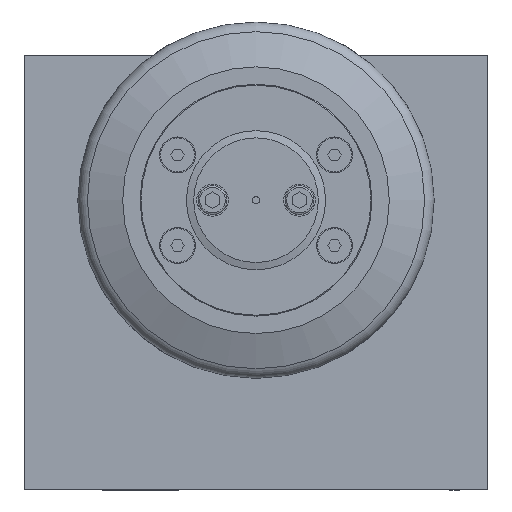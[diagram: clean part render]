
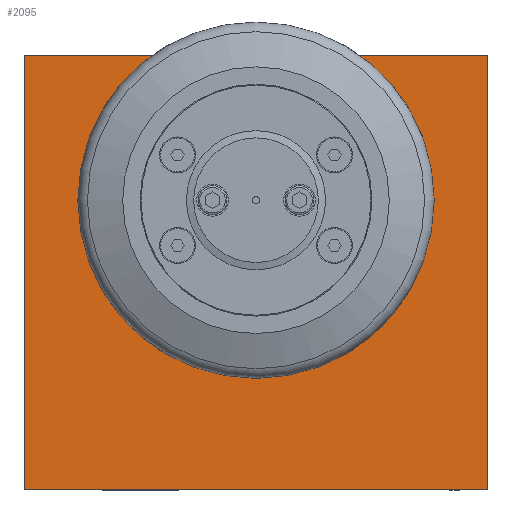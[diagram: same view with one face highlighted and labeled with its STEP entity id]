
A CAD part, front view. The second image highlights one B-rep face of the part: STEP entity #2095.
In plain terms, the highlighted planar face has unit normal (0, -1, 0).
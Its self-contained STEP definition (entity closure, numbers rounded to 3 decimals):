
#71=FACE_BOUND('',#418,.T.);
#158=CIRCLE('',#2305,39.5);
#274=FACE_OUTER_BOUND('',#417,.T.);
#417=EDGE_LOOP('',(#1751,#1752,#1753,#1754));
#418=EDGE_LOOP('',(#1755));
#588=LINE('',#3457,#782);
#589=LINE('',#3459,#783);
#590=LINE('',#3461,#784);
#591=LINE('',#3462,#785);
#782=VECTOR('',#2825,10.);
#783=VECTOR('',#2826,10.);
#784=VECTOR('',#2827,10.);
#785=VECTOR('',#2828,10.);
#988=VERTEX_POINT('',#3445);
#991=VERTEX_POINT('',#3455);
#992=VERTEX_POINT('',#3456);
#993=VERTEX_POINT('',#3458);
#994=VERTEX_POINT('',#3460);
#1252=EDGE_CURVE('',#988,#988,#158,.T.);
#1255=EDGE_CURVE('',#991,#992,#588,.T.);
#1256=EDGE_CURVE('',#993,#992,#589,.T.);
#1257=EDGE_CURVE('',#994,#993,#590,.T.);
#1258=EDGE_CURVE('',#994,#991,#591,.T.);
#1751=ORIENTED_EDGE('',*,*,#1255,.T.);
#1752=ORIENTED_EDGE('',*,*,#1256,.F.);
#1753=ORIENTED_EDGE('',*,*,#1257,.F.);
#1754=ORIENTED_EDGE('',*,*,#1258,.T.);
#1755=ORIENTED_EDGE('',*,*,#1252,.T.);
#1985=PLANE('',#2310);
#2095=ADVANCED_FACE('',(#274,#71),#1985,.T.);
#2305=AXIS2_PLACEMENT_3D('',#3447,#2813,#2814);
#2310=AXIS2_PLACEMENT_3D('',#3454,#2823,#2824);
#2813=DIRECTION('center_axis',(0.,1.,0.));
#2814=DIRECTION('ref_axis',(-1.,0.,0.));
#2823=DIRECTION('center_axis',(0.,-1.,0.));
#2824=DIRECTION('ref_axis',(0.,0.,-1.));
#2825=DIRECTION('',(0.,0.,1.));
#2826=DIRECTION('',(1.,0.,0.));
#2827=DIRECTION('',(0.,0.,1.));
#2828=DIRECTION('',(1.,0.,0.));
#3445=CARTESIAN_POINT('',(119.5,0.,100.));
#3447=CARTESIAN_POINT('Origin',(80.,0.,100.));
#3454=CARTESIAN_POINT('Origin',(0.,0.,0.));
#3455=CARTESIAN_POINT('',(160.,0.,0.));
#3456=CARTESIAN_POINT('',(160.,0.,150.));
#3457=CARTESIAN_POINT('',(160.,0.,0.));
#3458=CARTESIAN_POINT('',(0.,0.,150.));
#3459=CARTESIAN_POINT('',(0.,0.,150.));
#3460=CARTESIAN_POINT('',(0.,0.,0.));
#3461=CARTESIAN_POINT('',(0.,0.,0.));
#3462=CARTESIAN_POINT('',(0.,0.,0.));
